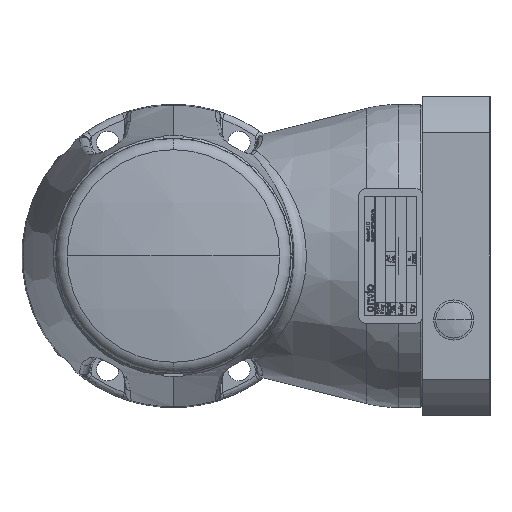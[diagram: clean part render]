
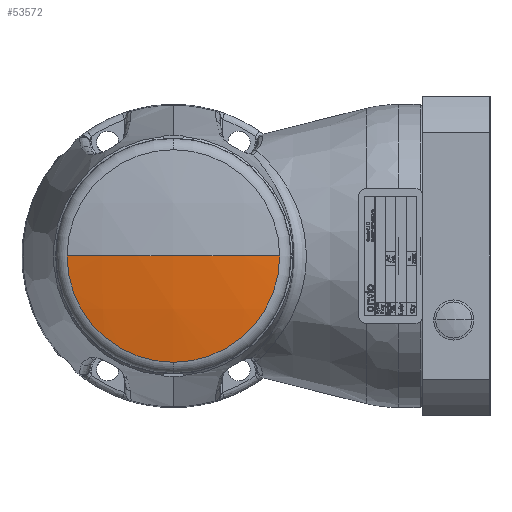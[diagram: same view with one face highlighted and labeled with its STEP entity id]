
A CAD part, left-side view. The second image highlights one B-rep face of the part: STEP entity #53572.
In plain terms, the highlighted spherical face has radius 193.526 mm.
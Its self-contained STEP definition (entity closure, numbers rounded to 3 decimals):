
#3730 = EDGE_CURVE ( 'NONE', #42075, #32002, #27790, .T. ) ;
#4183 = AXIS2_PLACEMENT_3D ( 'NONE', #45018, #24011, #7046 ) ;
#7046 = DIRECTION ( 'NONE',  ( 1., 0., 0. ) ) ;
#7675 = DIRECTION ( 'NONE',  ( 0., 0., 1. ) ) ;
#8251 = CARTESIAN_POINT ( 'NONE',  ( -48.409, 0., -31.56 ) ) ;
#11472 = EDGE_CURVE ( 'NONE', #29918, #32002, #53751, .T. ) ;
#11606 = FACE_OUTER_BOUND ( 'NONE', #47648, .T. ) ;
#12361 = DIRECTION ( 'NONE',  ( -1., 0., 0. ) ) ;
#12514 = CARTESIAN_POINT ( 'NONE',  ( 142.526, 0., 0. ) ) ;
#12661 = AXIS2_PLACEMENT_3D ( 'NONE', #49267, #12361, #7675 ) ;
#12707 = DIRECTION ( 'NONE',  ( 0., 0., -1. ) ) ;
#16127 = VERTEX_POINT ( 'NONE', #8251 ) ;
#16205 = CIRCLE ( 'NONE', #12661, 31.56 ) ;
#19937 = DIRECTION ( 'NONE',  ( 0., 0., 1. ) ) ;
#24011 = DIRECTION ( 'NONE',  ( 0., 0., 1. ) ) ;
#24999 = ORIENTED_EDGE ( 'NONE', *, *, #50209, .T. ) ;
#25280 = CARTESIAN_POINT ( 'NONE',  ( -48.409, 0., 0. ) ) ;
#25483 = AXIS2_PLACEMENT_3D ( 'NONE', #38013, #12707, #50454 ) ;
#25995 = ORIENTED_EDGE ( 'NONE', *, *, #3730, .T. ) ;
#27790 = CIRCLE ( 'NONE', #47217, 193.526 ) ;
#29531 = CARTESIAN_POINT ( 'NONE',  ( -48.409, -31.56, 0. ) ) ;
#29918 = VERTEX_POINT ( 'NONE', #52151 ) ;
#32002 = VERTEX_POINT ( 'NONE', #49879 ) ;
#32205 = CIRCLE ( 'NONE', #49849, 31.56 ) ;
#38013 = CARTESIAN_POINT ( 'NONE',  ( 142.526, 0., 0. ) ) ;
#38081 = DIRECTION ( 'NONE',  ( 0., 1., 0. ) ) ;
#38990 = EDGE_CURVE ( 'NONE', #29918, #16127, #32205, .T. ) ;
#42075 = VERTEX_POINT ( 'NONE', #29531 ) ;
#42140 = DIRECTION ( 'NONE',  ( -1., 0., 0. ) ) ;
#42428 = SPHERICAL_SURFACE ( 'NONE', #25483, 193.526 ) ;
#45018 = CARTESIAN_POINT ( 'NONE',  ( 142.526, 0., 0. ) ) ;
#46235 = ORIENTED_EDGE ( 'NONE', *, *, #11472, .F. ) ;
#47217 = AXIS2_PLACEMENT_3D ( 'NONE', #12514, #54375, #38081 ) ;
#47648 = EDGE_LOOP ( 'NONE', ( #52099, #24999, #25995, #46235 ) ) ;
#49267 = CARTESIAN_POINT ( 'NONE',  ( -48.409, 0., 0. ) ) ;
#49849 = AXIS2_PLACEMENT_3D ( 'NONE', #25280, #42140, #19937 ) ;
#49879 = CARTESIAN_POINT ( 'NONE',  ( -51., 0., 0. ) ) ;
#50209 = EDGE_CURVE ( 'NONE', #16127, #42075, #16205, .T. ) ;
#50454 = DIRECTION ( 'NONE',  ( 0., 1., 0. ) ) ;
#52099 = ORIENTED_EDGE ( 'NONE', *, *, #38990, .T. ) ;
#52151 = CARTESIAN_POINT ( 'NONE',  ( -48.409, 31.56, 0. ) ) ;
#53572 = ADVANCED_FACE ( 'NONE', ( #11606 ), #42428, .T. ) ;
#53751 = CIRCLE ( 'NONE', #4183, 193.526 ) ;
#54375 = DIRECTION ( 'NONE',  ( 0., 0., -1. ) ) ;
